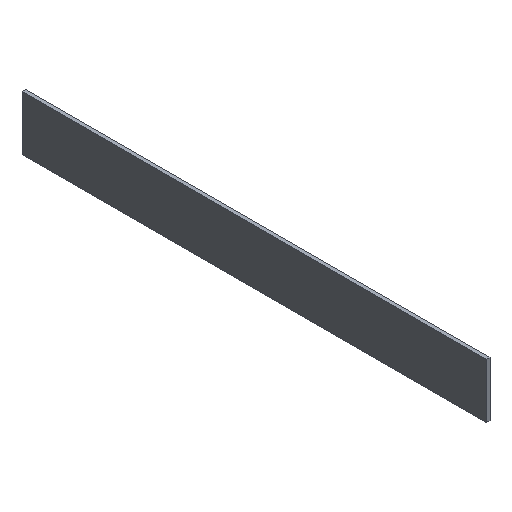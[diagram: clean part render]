
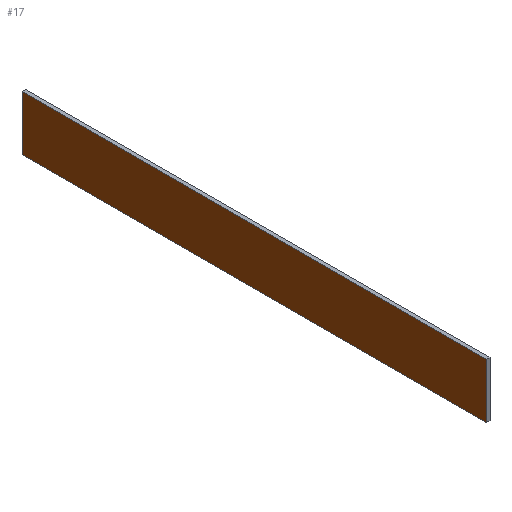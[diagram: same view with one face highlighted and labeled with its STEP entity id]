
A CAD part, isometric view. The second image highlights one B-rep face of the part: STEP entity #17.
In plain terms, the highlighted planar face has unit normal (-1, 0, 0).
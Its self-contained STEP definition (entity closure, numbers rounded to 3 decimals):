
#17 = ADVANCED_FACE('',(#18),#32,.F.);
#18 = FACE_BOUND('',#19,.F.);
#19 = EDGE_LOOP('',(#20,#55,#83,#111));
#20 = ORIENTED_EDGE('',*,*,#21,.F.);
#21 = EDGE_CURVE('',#22,#24,#26,.T.);
#22 = VERTEX_POINT('',#23);
#23 = CARTESIAN_POINT('',(-30.26,31.,-15.8));
#24 = VERTEX_POINT('',#25);
#25 = CARTESIAN_POINT('',(-30.26,31.,-12.15));
#26 = SURFACE_CURVE('',#27,(#31,#43),.PCURVE_S1.);
#27 = LINE('',#28,#29);
#28 = CARTESIAN_POINT('',(-30.26,31.,-15.8));
#29 = VECTOR('',#30,1.);
#30 = DIRECTION('',(0.,0.,1.));
#31 = PCURVE('',#32,#37);
#32 = PLANE('',#33);
#33 = AXIS2_PLACEMENT_3D('',#34,#35,#36);
#34 = CARTESIAN_POINT('',(-30.26,31.,-15.8));
#35 = DIRECTION('',(1.,0.,-0.));
#36 = DIRECTION('',(0.,0.,1.));
#37 = DEFINITIONAL_REPRESENTATION('',(#38),#42);
#38 = LINE('',#39,#40);
#39 = CARTESIAN_POINT('',(0.,0.));
#40 = VECTOR('',#41,1.);
#41 = DIRECTION('',(1.,0.));
#42 = ( GEOMETRIC_REPRESENTATION_CONTEXT(2) 
PARAMETRIC_REPRESENTATION_CONTEXT() REPRESENTATION_CONTEXT('2D SPACE',''
  ) );
#43 = PCURVE('',#44,#49);
#44 = PLANE('',#45);
#45 = AXIS2_PLACEMENT_3D('',#46,#47,#48);
#46 = CARTESIAN_POINT('',(-30.26,31.,-15.8));
#47 = DIRECTION('',(-0.,1.,0.));
#48 = DIRECTION('',(0.,0.,1.));
#49 = DEFINITIONAL_REPRESENTATION('',(#50),#54);
#50 = LINE('',#51,#52);
#51 = CARTESIAN_POINT('',(0.,0.));
#52 = VECTOR('',#53,1.);
#53 = DIRECTION('',(1.,0.));
#54 = ( GEOMETRIC_REPRESENTATION_CONTEXT(2) 
PARAMETRIC_REPRESENTATION_CONTEXT() REPRESENTATION_CONTEXT('2D SPACE',''
  ) );
#55 = ORIENTED_EDGE('',*,*,#56,.T.);
#56 = EDGE_CURVE('',#22,#57,#59,.T.);
#57 = VERTEX_POINT('',#58);
#58 = CARTESIAN_POINT('',(-30.26,62.,-15.8));
#59 = SURFACE_CURVE('',#60,(#64,#71),.PCURVE_S1.);
#60 = LINE('',#61,#62);
#61 = CARTESIAN_POINT('',(-30.26,31.,-15.8));
#62 = VECTOR('',#63,1.);
#63 = DIRECTION('',(-0.,1.,0.));
#64 = PCURVE('',#32,#65);
#65 = DEFINITIONAL_REPRESENTATION('',(#66),#70);
#66 = LINE('',#67,#68);
#67 = CARTESIAN_POINT('',(0.,0.));
#68 = VECTOR('',#69,1.);
#69 = DIRECTION('',(0.,-1.));
#70 = ( GEOMETRIC_REPRESENTATION_CONTEXT(2) 
PARAMETRIC_REPRESENTATION_CONTEXT() REPRESENTATION_CONTEXT('2D SPACE',''
  ) );
#71 = PCURVE('',#72,#77);
#72 = PLANE('',#73);
#73 = AXIS2_PLACEMENT_3D('',#74,#75,#76);
#74 = CARTESIAN_POINT('',(-30.26,31.,-15.8));
#75 = DIRECTION('',(0.,0.,1.));
#76 = DIRECTION('',(1.,0.,-0.));
#77 = DEFINITIONAL_REPRESENTATION('',(#78),#82);
#78 = LINE('',#79,#80);
#79 = CARTESIAN_POINT('',(0.,0.));
#80 = VECTOR('',#81,1.);
#81 = DIRECTION('',(0.,1.));
#82 = ( GEOMETRIC_REPRESENTATION_CONTEXT(2) 
PARAMETRIC_REPRESENTATION_CONTEXT() REPRESENTATION_CONTEXT('2D SPACE',''
  ) );
#83 = ORIENTED_EDGE('',*,*,#84,.T.);
#84 = EDGE_CURVE('',#57,#85,#87,.T.);
#85 = VERTEX_POINT('',#86);
#86 = CARTESIAN_POINT('',(-30.26,62.,-12.15));
#87 = SURFACE_CURVE('',#88,(#92,#99),.PCURVE_S1.);
#88 = LINE('',#89,#90);
#89 = CARTESIAN_POINT('',(-30.26,62.,-15.8));
#90 = VECTOR('',#91,1.);
#91 = DIRECTION('',(0.,0.,1.));
#92 = PCURVE('',#32,#93);
#93 = DEFINITIONAL_REPRESENTATION('',(#94),#98);
#94 = LINE('',#95,#96);
#95 = CARTESIAN_POINT('',(0.,-31.));
#96 = VECTOR('',#97,1.);
#97 = DIRECTION('',(1.,0.));
#98 = ( GEOMETRIC_REPRESENTATION_CONTEXT(2) 
PARAMETRIC_REPRESENTATION_CONTEXT() REPRESENTATION_CONTEXT('2D SPACE',''
  ) );
#99 = PCURVE('',#100,#105);
#100 = PLANE('',#101);
#101 = AXIS2_PLACEMENT_3D('',#102,#103,#104);
#102 = CARTESIAN_POINT('',(-30.26,62.,-15.8));
#103 = DIRECTION('',(-0.,1.,0.));
#104 = DIRECTION('',(0.,0.,1.));
#105 = DEFINITIONAL_REPRESENTATION('',(#106),#110);
#106 = LINE('',#107,#108);
#107 = CARTESIAN_POINT('',(0.,0.));
#108 = VECTOR('',#109,1.);
#109 = DIRECTION('',(1.,0.));
#110 = ( GEOMETRIC_REPRESENTATION_CONTEXT(2) 
PARAMETRIC_REPRESENTATION_CONTEXT() REPRESENTATION_CONTEXT('2D SPACE',''
  ) );
#111 = ORIENTED_EDGE('',*,*,#112,.F.);
#112 = EDGE_CURVE('',#24,#85,#113,.T.);
#113 = SURFACE_CURVE('',#114,(#118,#125),.PCURVE_S1.);
#114 = LINE('',#115,#116);
#115 = CARTESIAN_POINT('',(-30.26,31.,-12.15));
#116 = VECTOR('',#117,1.);
#117 = DIRECTION('',(-0.,1.,0.));
#118 = PCURVE('',#32,#119);
#119 = DEFINITIONAL_REPRESENTATION('',(#120),#124);
#120 = LINE('',#121,#122);
#121 = CARTESIAN_POINT('',(3.65,0.));
#122 = VECTOR('',#123,1.);
#123 = DIRECTION('',(0.,-1.));
#124 = ( GEOMETRIC_REPRESENTATION_CONTEXT(2) 
PARAMETRIC_REPRESENTATION_CONTEXT() REPRESENTATION_CONTEXT('2D SPACE',''
  ) );
#125 = PCURVE('',#126,#131);
#126 = PLANE('',#127);
#127 = AXIS2_PLACEMENT_3D('',#128,#129,#130);
#128 = CARTESIAN_POINT('',(-30.26,31.,-12.15));
#129 = DIRECTION('',(0.,0.,1.));
#130 = DIRECTION('',(1.,0.,-0.));
#131 = DEFINITIONAL_REPRESENTATION('',(#132),#136);
#132 = LINE('',#133,#134);
#133 = CARTESIAN_POINT('',(0.,0.));
#134 = VECTOR('',#135,1.);
#135 = DIRECTION('',(0.,1.));
#136 = ( GEOMETRIC_REPRESENTATION_CONTEXT(2) 
PARAMETRIC_REPRESENTATION_CONTEXT() REPRESENTATION_CONTEXT('2D SPACE',''
  ) );
